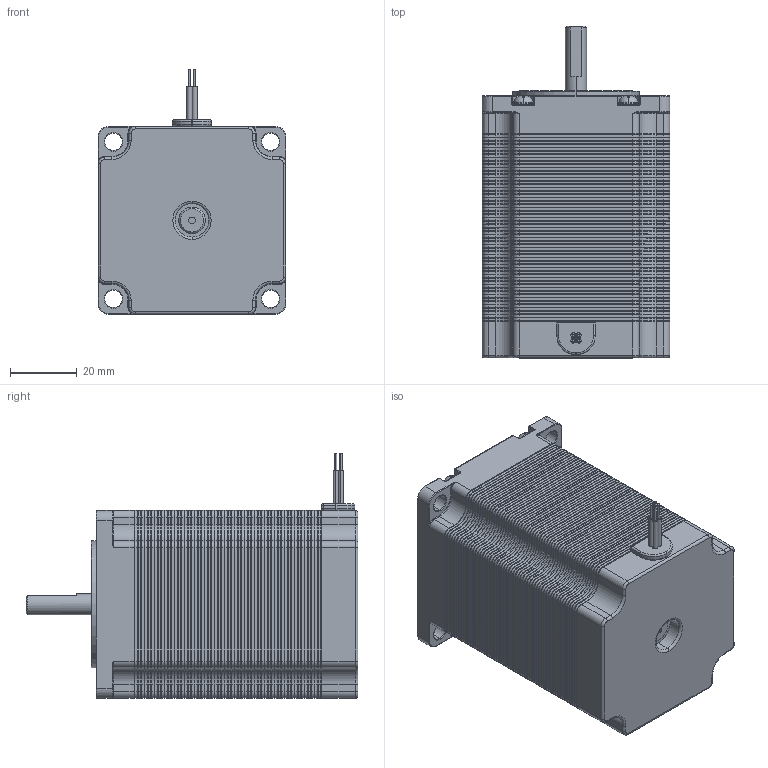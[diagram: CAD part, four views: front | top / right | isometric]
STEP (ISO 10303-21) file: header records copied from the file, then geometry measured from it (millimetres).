
FILE_DESCRIPTION (( 'STEP AP214' ), '1' );
FILE_NAME ('Nema 23 Stepper Motor length 80mm_6.35.STEP', '2020-11-11T11:58:05', ( 'Moofasta' ), ( '' ), 'SwSTEP 2.0', 'SolidWorks 2020', '' );
FILE_SCHEMA (( 'AUTOMOTIVE_DESIGN' ));
Length unit declared in the file: millimetre
Products named in the file (1): Nema 23 Stepper Motor length 80mm_6.35
Bounding box: 56.3 x 99.5 x 73.3 mm (x, y, z)
Volume: 226681.4 mm3; surface area: 348297.2 mm2
Topology: 72 solids, 72 shells, 4621 faces, 10504 edges, 6013 vertices
Faces by surface type: plane 2301, cone 1372, cylinder 834, torus 94, sphere 12, bspline 8
Entity records: 172965 total; most frequent: DIRECTION 22826, CARTESIAN_POINT 21573, ORIENTED_EDGE 20968, EDGE_CURVE 10484, AXIS2_PLACEMENT_3D 7802, VECTOR 7222, LINE 7222, VERTEX_POINT 6013
